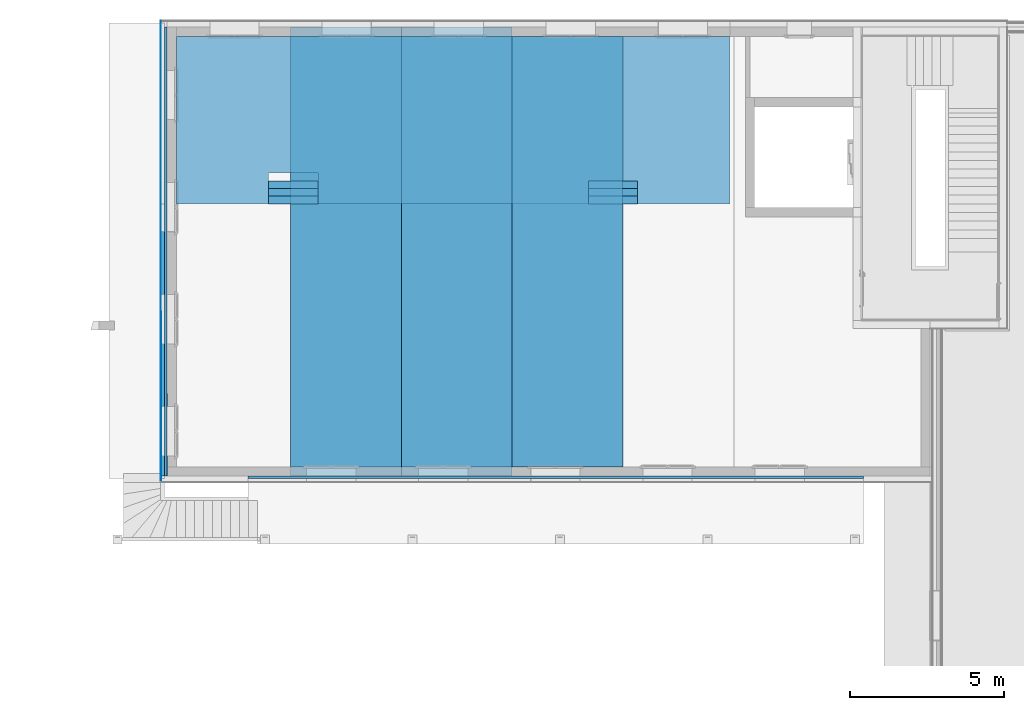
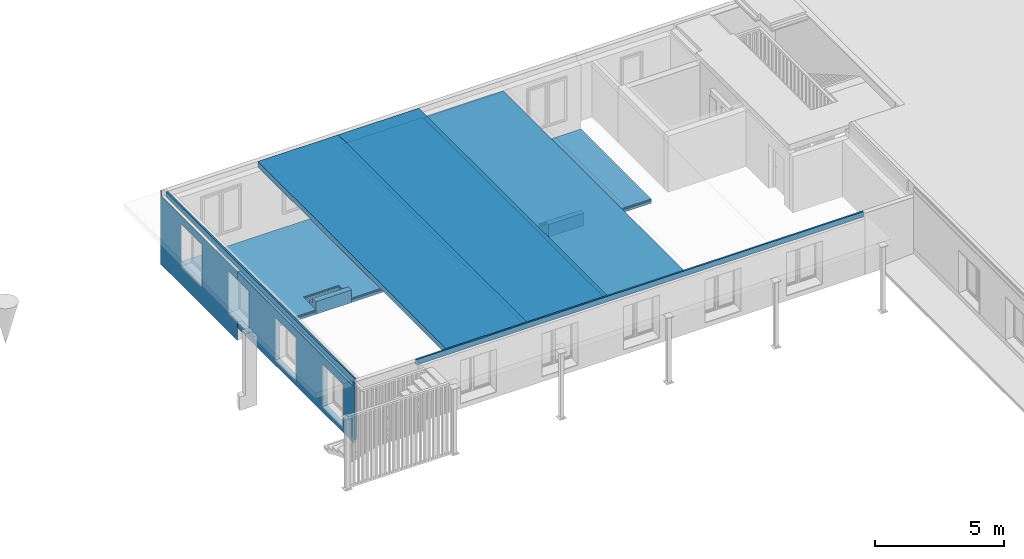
# One storey, part 12 of 20: 16 building element parts, 2 discrete accessories, 5 openings, 8 elements without a shape of their own.
"""IFC4 building model written with IfcOpenShell, lengths in millimetres."""

from ifc_helpers import new_model, entity, si_unit, converted_unit, derived_unit, direction, frame, origin_with_axes, place, context, subcontext, project, spatial, polygons, material, type_object, element, aggregate, save


model = new_model("IFC4")

# Units and contexts
model_context = context("Model", 3, precision=0.01, world=origin_with_axes(), true_north=direction((0.0, 1.0)))
body_context = subcontext(model_context, "Body", "Model", "MODEL_VIEW")
ifc_project = project(units=[si_unit("LENGTHUNIT", "METRE", prefix="MILLI"), si_unit("AREAUNIT", "SQUARE_METRE"), si_unit("VOLUMEUNIT", "CUBIC_METRE"), converted_unit("PLANEANGLEUNIT", "DEGREE", entity("IfcPlaneAngleMeasure", 0.0174532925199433), si_unit("PLANEANGLEUNIT", "RADIAN"), dimensions=[0, 0, 0, 0, 0, 0, 0]), converted_unit("TIMEUNIT", "Year", entity("IfcTimeMeasure", 31557600.0), si_unit("TIMEUNIT", "SECOND"), dimensions=[0, 0, 1, 0, 0, 0, 0]), si_unit("MASSUNIT", "GRAM", prefix="KILO"), si_unit("THERMODYNAMICTEMPERATUREUNIT", "DEGREE_CELSIUS"), si_unit("LUMINOUSINTENSITYUNIT", "LUMEN"), si_unit("ENERGYUNIT", "JOULE", prefix="MEGA"), derived_unit("THERMALCONDUCTANCEUNIT", [(si_unit("POWERUNIT", "WATT"), 1), (si_unit("LENGTHUNIT", "METRE"), -1), (si_unit("THERMODYNAMICTEMPERATUREUNIT", "KELVIN"), -1)]), derived_unit("SPECIFICHEATCAPACITYUNIT", [(si_unit("ENERGYUNIT", "JOULE"), 1), (si_unit("MASSUNIT", "GRAM", prefix="KILO"), -1), (si_unit("THERMODYNAMICTEMPERATUREUNIT", "KELVIN"), -1)]), derived_unit("MASSDENSITYUNIT", [(si_unit("MASSUNIT", "GRAM", prefix="KILO"), 1), (si_unit("VOLUMEUNIT", "CUBIC_METRE"), -1)])], contexts=[model_context])

# Site, building, storey
site_placement = place(None, origin_with_axes())
site = spatial("IfcSite", under=ifc_project, at=site_placement, Name="Gelände", CompositionType="ELEMENT")
building_placement = place(site_placement, origin_with_axes())
building = spatial("IfcBuilding", under=site, at=building_placement, Name="Gebäude", CompositionType="ELEMENT")
storey_placement = place(building_placement, frame((0.0, 0.0, 5.198845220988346e-05), z_axis=(0.0, 0.0, 1.0), x_axis=(1.0, 0.0, 0.0)))
storey = spatial("IfcBuildingStorey", under=building, at=storey_placement, Name="EG", CompositionType="ELEMENT", Elevation=0.0)

# Discrete accessories
ifc_material_1 = material(Name="Bewehrung")
discrete_accessory_type = type_object("IfcDiscreteAccessoryType", Name="Bewehrung 80 x 250", PredefinedType="NOTDEFINED")
discrete_accessory_1_placement = place(storey_placement, frame((-4228.246602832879, 23157.59674077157, 2649.999948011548), z_axis=(0.0, 0.0, 1.0), x_axis=(0.0, -1.0, 0.0)))
element("IfcDiscreteAccessory", 1, at=discrete_accessory_1_placement, inside=storey, type_object=discrete_accessory_type, material=ifc_material_1, Name="Unterzug-029", PredefinedType="NOTDEFINED", context=body_context, shape_type="Tessellation", body=[
    polygons([(0.0, 19991.24242132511, 0.0), (79.9999999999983, 19991.24242132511, 0.0), (79.9999999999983, 0.0, 0.0), (0.0, 0.0, 0.0), (0.0, 19991.24242132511, 250.0), (79.9999999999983, 19991.24242132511, 250.0), (79.9999999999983, 0.0, 250.0), (0.0, 0.0, 250.0)], [[[1, 2, 3, 4]], [[1, 5, 6, 2]], [[2, 6, 7, 3]], [[4, 3, 7, 8]], [[5, 1, 4, 8]], [[6, 5, 8, 7]]], closed=True),
])
discrete_accessory_2_placement = place(storey_placement, frame((-6861.004181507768, 37737.5972813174, 2649.999948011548), z_axis=(0.0, 0.0, 1.0), x_axis=(-1.0, 0.0, 0.0)))
element("IfcDiscreteAccessory", 2, at=discrete_accessory_2_placement, inside=storey, type_object=discrete_accessory_type, material=ifc_material_1, Name="Unterzug-028", PredefinedType="NOTDEFINED", context=body_context, shape_type="Tessellation", body=[
    polygons([(0.0, 14580.00054054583, 0.0), (80.00000000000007, 14580.00054054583, 0.0), (80.00000000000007, 0.0, 0.0), (0.0, 0.0, 0.0), (0.0, 14580.00054054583, 250.0), (80.00000000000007, 14580.00054054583, 250.0), (80.00000000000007, 0.0, 250.0), (0.0, 0.0, 250.0)], [[[1, 2, 3, 4]], [[1, 5, 6, 2]], [[2, 6, 7, 3]], [[4, 3, 7, 8]], [[5, 1, 4, 8]], [[6, 5, 8, 7]]], closed=True),
])

# Curtain wall, openings, building element part
curtain_wall_type = type_object("IfcCurtainWallType", Name="Fassade Typ 01 - Kompaktfassade 210", PredefinedType="NOTDEFINED")
curtain_wall_1_placement = place(storey_placement, frame((-7071.004181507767, 37947.59728131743, -600.0000000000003), z_axis=(0.0, 0.0, 1.0), x_axis=(0.0, -1.0, 0.0)))
curtain_wall_1 = element("IfcCurtainWall", 3, at=curtain_wall_1_placement, inside=storey, type_object=curtain_wall_type, Name="Wand-014", PredefinedType="NOTDEFINED")
opening_1_placement = place(curtain_wall_1_placement, frame((2412.000000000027, 0.0, 861.9999480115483), z_axis=(0.0, 0.0, 1.0), x_axis=(1.0, 0.0, 0.0)))
element("IfcOpeningElement", 4, at=opening_1_placement, cuts=curtain_wall_1, Name="Fenster-004", context=body_context, identifier="Reference", shape_type="Tessellation", body=[
    polygons([(-801.9999999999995, -1.00000000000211, 2010.0), (-801.9999999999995, -1.00000000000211, 0.0), (801.9999999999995, -1.000000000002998, 0.0), (801.9999999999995, -1.000000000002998, 2010.0), (-801.9999999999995, 211.000000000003, 2010.0), (-801.9999999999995, 211.000000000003, 0.0), (801.9999999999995, 211.0000000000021, 0.0), (801.9999999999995, 211.0000000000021, 2010.0)], [[[1, 2, 3, 4]], [[5, 6, 2, 1]], [[6, 7, 3, 2]], [[7, 8, 4, 3]], [[8, 5, 1, 4]], [[7, 6, 5, 8]]], closed=True),
])
opening_2_placement = place(curtain_wall_1_placement, frame((6054.000000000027, 0.0, 861.9999480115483), z_axis=(0.0, 0.0, 1.0), x_axis=(1.0, 0.0, 0.0)))
element("IfcOpeningElement", 5, at=opening_2_placement, cuts=curtain_wall_1, Name="Fenster-004", context=body_context, identifier="Reference", shape_type="Tessellation", body=[
    polygons([(-802.0000000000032, -1.000000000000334, 2010.0), (-802.0000000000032, -1.000000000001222, 0.0), (801.9999999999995, -1.000000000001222, 0.0), (801.9999999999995, -1.000000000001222, 2010.0), (-802.0000000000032, 211.0000000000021, 2010.0), (-802.0000000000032, 211.0000000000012, 0.0), (801.9999999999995, 211.0000000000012, 0.0), (801.9999999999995, 211.0000000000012, 2010.0)], [[[1, 2, 3, 4]], [[5, 6, 2, 1]], [[6, 7, 3, 2]], [[7, 8, 4, 3]], [[8, 5, 1, 4]], [[7, 6, 5, 8]]], closed=True),
])
ifc_material_2 = material(Name="Zementputz Aussen")
building_element_part_1_placement = place(curtain_wall_1_placement, origin_with_axes())
building_element_part_1 = element("IfcBuildingElementPart", 6, at=building_element_part_1_placement, material=ifc_material_2, Name="Zementputz Aussen", PredefinedType="NOTDEFINED", context=body_context, shape_type="Tessellation", body=[
    polygons([(5252.000000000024, 9.999999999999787, 2871.999948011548), (5252.000000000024, 9.999999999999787, 861.9999480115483), (5949.999771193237, 10.00001472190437, 861.9999480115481), (5950.000282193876, 10.00001472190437, 600.0000000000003), (5950.000282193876, 9.999999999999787, 0.0), (0.0, 9.999999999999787, 0.0), (0.0, 10.00000024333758, 3499.999948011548), (80.00000000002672, 10.00000043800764, 3499.999948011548), (80.00000000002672, 10.00001472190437, 3249.999948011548), (5949.995113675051, 10.00001472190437, 3249.999948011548), (5949.995850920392, 10.00001472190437, 2871.999948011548), (3214.000000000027, 10.00001472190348, 861.9999480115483), (3214.000000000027, 10.00001472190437, 2871.999948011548), (1610.000000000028, 10.00001472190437, 2871.999948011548), (1610.000000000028, 10.00001472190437, 861.9999480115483), (5252.000000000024, 0.0, 861.9999480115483), (5252.000000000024, 0.0, 2871.999948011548), (5950.000282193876, 0.0, 861.9999480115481), (5950.000282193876, 0.0, 600.0000000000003), (5950.000282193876, 0.0, 0.0), (0.0, 0.0, 0.0), (0.0, 0.0, 3499.999948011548), (80.00000000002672, 0.0, 3499.999948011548), (80.00000000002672, 0.0, 3249.999948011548), (5950.000282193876, 0.0, 3249.999948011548), (5950.000282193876, 0.0, 2871.999948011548), (3214.000000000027, 0.0, 861.9999480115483), (3214.000000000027, 0.0, 2871.999948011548), (1610.000000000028, 0.0, 2871.999948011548), (1610.000000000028, 0.0, 861.9999480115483)], [[[1, 2, 3, 4, 5, 6, 7, 8, 9, 10, 11], [12, 13, 14, 15]], [[16, 2, 1, 17]], [[18, 3, 2, 16]], [[4, 3, 18, 19]], [[4, 19, 20, 5]], [[20, 21, 6, 5]], [[7, 6, 21, 22]], [[8, 7, 22, 23]], [[8, 23, 24, 9]], [[9, 24, 25, 10]], [[25, 26, 11, 10]], [[17, 1, 11, 26]], [[13, 12, 27, 28]], [[14, 13, 28, 29]], [[15, 14, 29, 30]], [[12, 15, 30, 27]], [[16, 17, 26, 25, 24, 23, 22, 21, 20, 19, 18], [27, 30, 29, 28]]], closed=True),
])
aggregate(curtain_wall_1, [building_element_part_1])

# Curtain wall, openings, building element parts
curtain_wall_2_placement = place(storey_placement, frame((-7071.004181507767, 31997.59699912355, 0.0), z_axis=(0.0, 0.0, 1.0), x_axis=(0.001131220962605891, -0.9999993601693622, 0.0)))
curtain_wall_2 = element("IfcCurtainWall", 7, at=curtain_wall_2_placement, inside=storey, type_object=curtain_wall_type, Name="Wand-014", PredefinedType="NOTDEFINED")
opening_3_placement = place(curtain_wall_2_placement, frame((3745.999717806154, 0.0, 261.9999480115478), z_axis=(0.0, 0.0, 1.0), x_axis=(1.0, 0.0, 0.0)))
element("IfcOpeningElement", 8, at=opening_3_placement, cuts=curtain_wall_2, Name="Fenster-004", context=body_context, identifier="Reference", shape_type="Tessellation", body=[
    polygons([(-801.9999999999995, -11.23755000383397, 2010.0), (-801.9999999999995, -11.23755000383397, 0.0), (801.9999999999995, -11.23755000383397, 0.0), (801.9999999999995, -11.23755000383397, 2010.0), (-801.999999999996, 221.2375500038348, 2010.0), (-801.999999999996, 221.2375500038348, 0.0), (802.0000000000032, 221.2375500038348, 0.0), (802.0000000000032, 221.2375500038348, 2010.0)], [[[1, 2, 3, 4]], [[5, 6, 2, 1]], [[6, 7, 3, 2]], [[7, 8, 4, 3]], [[8, 5, 1, 4]], [[7, 6, 5, 8]]], closed=True),
])
opening_4_placement = place(curtain_wall_2_placement, frame((103.999717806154, 0.0, 261.9999480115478), z_axis=(0.0, 0.0, 1.0), x_axis=(1.0, 0.0, 0.0)))
element("IfcOpeningElement", 9, at=opening_4_placement, cuts=curtain_wall_2, Name="Fenster-004", context=body_context, identifier="Reference", shape_type="Tessellation", body=[
    polygons([(-802.0000000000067, -11.23755000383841, 2010.0), (-802.0000000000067, -11.23755000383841, 0.0), (801.9999999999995, -11.23755000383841, 0.0), (801.9999999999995, -11.23755000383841, 2010.0), (-802.0000000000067, 221.2375500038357, 2010.0), (-802.0000000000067, 221.2375500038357, 0.0), (802.0000000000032, 221.2375500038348, 0.0), (802.0000000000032, 221.2375500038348, 2010.0)], [[[1, 2, 3, 4]], [[5, 6, 2, 1]], [[6, 7, 3, 2]], [[7, 8, 4, 3]], [[8, 5, 1, 4]], [[7, 6, 5, 8]]], closed=True),
])
opening_5_placement = place(curtain_wall_2_placement, frame((7387.999717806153, 0.0, 261.9999480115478), z_axis=(0.0, 0.0, 1.0), x_axis=(1.0, 0.0, 0.0)))
element("IfcOpeningElement", 10, at=opening_5_placement, cuts=curtain_wall_2, Name="Fenster-004", context=body_context, identifier="Reference", shape_type="Tessellation", body=[
    polygons([(-801.9999999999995, -11.23755000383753, 2010.0), (-801.9999999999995, -11.23755000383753, 0.0), (801.9999999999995, -11.23755000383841, 0.0), (801.9999999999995, -11.23755000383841, 2010.0), (-801.9999999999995, 221.2375500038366, 2010.0), (-801.9999999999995, 221.2375500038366, 0.0), (802.0000000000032, 221.2375500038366, 0.0), (802.0000000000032, 221.2375500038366, 2010.0)], [[[1, 2, 3, 4]], [[5, 6, 2, 1]], [[6, 7, 3, 2]], [[7, 8, 4, 3]], [[8, 5, 1, 4]], [[7, 6, 5, 8]]], closed=True),
])
ifc_material_3 = material(Name="Dämmung Aussen")
building_element_part_2_placement = place(curtain_wall_2_placement, origin_with_axes())
building_element_part_2 = element("IfcBuildingElementPart", 11, at=building_element_part_2_placement, material=ifc_material_3, Name="Dämmung Aussen", PredefinedType="NOTDEFINED", context=body_context, shape_type="Tessellation", body=[
    polygons([(0.005656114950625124, 10.00001472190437, 2649.999948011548), (0.005656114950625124, 10.00001472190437, 2271.999948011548), (905.9997178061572, 10.00000049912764, 2271.999948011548), (905.9997178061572, 10.00000049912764, 261.9999480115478), (0.005656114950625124, 10.00001472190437, 261.9999480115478), (0.005656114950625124, 10.00001472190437, 0.0), (8840.017226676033, 10.00000049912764, 0.0), (8840.017226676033, 10.00000049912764, 2649.999948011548), (4547.999717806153, 10.00000049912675, 2271.999948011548), (4547.999717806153, 10.00000049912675, 261.9999480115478), (2943.999717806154, 10.00000049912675, 261.9999480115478), (2943.999717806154, 10.00000049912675, 2271.999948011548), (6585.999717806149, 10.00000049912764, 261.9999480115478), (6585.999717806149, 10.00000049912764, 2271.999948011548), (8189.999717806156, 10.00000049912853, 2271.999948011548), (8189.999717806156, 10.00000049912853, 261.9999480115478), (0.1187782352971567, 210.0000000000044, 2649.999948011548), (0.1187782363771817, 210.0000009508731, 2271.999948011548), (905.9997178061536, 210.0000000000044, 2271.999948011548), (905.9997178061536, 210.0000000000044, 261.9999480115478), (0.1187782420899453, 210.0000060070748, 261.9999480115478), (0.1187782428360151, 210.0000066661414, 0.0), (8840.243471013, 210.0000002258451, 0.0), (8840.243471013, 210.0000002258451, 2649.999948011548), (8840.141660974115, 119.9999232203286, 2649.999948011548), (4547.999717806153, 210.0000066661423, 2271.999948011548), (4547.999717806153, 210.0000066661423, 261.9999480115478), (2943.99971780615, 210.0000066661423, 261.9999480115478), (2943.99971780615, 210.0000066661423, 2271.999948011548), (6585.999717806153, 210.0000060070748, 261.9999480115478), (6585.999717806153, 210.0000060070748, 2271.999948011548), (8189.999717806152, 210.0000060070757, 2271.999948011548), (8189.999717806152, 210.0000060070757, 261.9999480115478)], [[[1, 2, 3, 4, 5, 6, 7, 8], [9, 10, 11, 12], [13, 14, 15, 16]], [[2, 1, 17, 18]], [[19, 3, 2, 18]], [[20, 4, 3, 19]], [[21, 5, 4, 20]], [[21, 22, 6, 5]], [[22, 23, 7, 6]], [[8, 7, 23, 24, 25]], [[24, 17, 1, 8, 25]], [[10, 9, 26, 27]], [[11, 10, 27, 28]], [[12, 11, 28, 29]], [[9, 12, 29, 26]], [[30, 31, 14, 13]], [[31, 32, 15, 14]], [[32, 33, 16, 15]], [[33, 30, 13, 16]], [[24, 23, 22, 21, 20, 19, 18, 17], [26, 29, 28, 27], [30, 33, 32, 31]]], closed=True),
])
building_element_part_3_placement = place(curtain_wall_2_placement, origin_with_axes())
building_element_part_3 = element("IfcBuildingElementPart", 12, at=building_element_part_3_placement, material=ifc_material_2, Name="Zementputz Aussen", PredefinedType="NOTDEFINED", context=body_context, shape_type="Tessellation", body=[
    polygons([(0.0, 0.0, 2649.999948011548), (0.0, 0.0, 2271.999948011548), (905.9997178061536, 0.0, 2271.999948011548), (905.9997178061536, 0.0, 261.9999480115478), (0.0, 0.0, 261.9999480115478), (0.0, 0.0, 0.0), (9040.00604242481, 0.0, 0.0), (9040.00604242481, 0.0, 2899.999948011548), (8920.005965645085, 0.0, 2899.999948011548), (8920.005965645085, 0.0, 2649.999948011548), (4547.999717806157, 0.0, 2271.999948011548), (4547.999717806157, 0.0, 261.9999480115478), (2943.999717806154, 0.0, 261.9999480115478), (2943.999717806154, 0.0, 2271.999948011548), (6585.999717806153, 0.0, 261.9999480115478), (6585.999717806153, 0.0, 2271.999948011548), (8189.999717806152, 0.0, 2271.999948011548), (8189.999717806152, 0.0, 261.9999480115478), (0.005656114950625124, 10.00001472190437, 2649.999948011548), (0.005656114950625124, 10.00001472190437, 2271.999948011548), (905.9997178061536, 10.00000017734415, 2271.999948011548), (905.9997178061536, 10.00000017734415, 261.9999480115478), (0.005656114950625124, 10.00001472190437, 261.9999480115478), (0.005656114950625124, 10.00001472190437, 0.0), (9040.017354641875, 10.00000017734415, 0.0), (9040.017354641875, 10.00000017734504, 2899.999948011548), (8920.017277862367, 10.0000003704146, 2899.999948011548), (8920.017277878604, 10.00001472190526, 2649.999948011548), (4547.999717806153, 10.00001472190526, 2271.999948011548), (4547.999717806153, 10.00001472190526, 261.9999480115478), (2943.999717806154, 10.00001472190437, 261.9999480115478), (2943.999717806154, 10.00001472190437, 2271.999948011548), (6585.999717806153, 10.00001472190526, 261.9999480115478), (6585.999717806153, 10.00001472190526, 2271.999948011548), (8189.999717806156, 10.00001472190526, 2271.999948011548), (8189.999717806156, 10.00001472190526, 261.9999480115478)], [[[1, 2, 3, 4, 5, 6, 7, 8, 9, 10], [11, 12, 13, 14], [15, 16, 17, 18]], [[2, 1, 19, 20]], [[21, 3, 2, 20]], [[22, 4, 3, 21]], [[23, 5, 4, 22]], [[23, 24, 6, 5]], [[25, 7, 6, 24]], [[7, 25, 26, 8]], [[26, 27, 9, 8]], [[10, 9, 27, 28]], [[10, 28, 19, 1]], [[12, 11, 29, 30]], [[13, 12, 30, 31]], [[14, 13, 31, 32]], [[11, 14, 32, 29]], [[33, 34, 16, 15]], [[34, 35, 17, 16]], [[35, 36, 18, 17]], [[36, 33, 15, 18]], [[26, 25, 24, 23, 22, 21, 20, 19, 28, 27], [29, 32, 31, 30], [33, 36, 35, 34]]], closed=True),
])
aggregate(curtain_wall_2, [building_element_part_2, building_element_part_3])

# Slab, building element parts
slab_type_1 = type_object("IfcSlabType", Name="Geschossdecke Typ 04 260", PredefinedType="NOTDEFINED")
slab_1_placement = place(storey_placement, frame((-2848.004181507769, 23157.59674077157, 2899.999948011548), z_axis=(0.0, 0.0, 1.0), x_axis=(1.0, 0.0, 0.0)))
slab_1 = element("IfcSlab", 13, at=slab_1_placement, inside=storey, type_object=slab_type_1, Name="Deckennr.-073", PredefinedType="NOTDEFINED")
ifc_material_4 = material(Name="Kalkzementputz Aussen")
building_element_part_4_placement = place(slab_1_placement, origin_with_axes())
building_element_part_4 = element("IfcBuildingElementPart", 14, at=building_element_part_4_placement, material=ifc_material_4, Name="Kalkzementputz Aussen", PredefinedType="NOTDEFINED", context=body_context, shape_type="Tessellation", body=[
    polygons([(3599.999999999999, 14280.00054054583, -260.0000000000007), (3599.999999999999, 14280.00054054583, -250.0000000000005), (3599.999999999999, 300.0000000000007, -250.0000000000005), (3599.999999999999, 300.0000000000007, -260.0000000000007), (0.0, 14280.00054054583, -250.0000000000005), (0.0, 14280.00054054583, -260.0000000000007), (0.0, 300.0000000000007, -250.0000000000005), (0.0, 300.0000000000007, -260.0000000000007)], [[[1, 2, 3, 4]], [[5, 2, 1, 6]], [[2, 5, 7, 3]], [[4, 3, 7, 8]], [[6, 1, 4, 8]], [[5, 6, 8, 7]]], closed=True),
])
ifc_material_5 = material(Name="Beton bewehrt")
building_element_part_5_placement = place(slab_1_placement, origin_with_axes())
building_element_part_5 = element("IfcBuildingElementPart", 15, at=building_element_part_5_placement, material=ifc_material_5, Name="Beton bewehrt", PredefinedType="NOTDEFINED", context=body_context, shape_type="Tessellation", body=[
    polygons([(3599.999999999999, 0.0, -250.0000000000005), (3599.999999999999, 0.0, 0.0), (0.0, 0.0, 0.0), (0.0, 0.0, -250.0000000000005), (3599.999999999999, 14580.00054054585, -250.0000000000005), (3599.999999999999, 14580.00054054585, 0.0), (0.0, 14580.00054054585, 0.0), (0.0, 14580.00054054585, -250.0000000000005)], [[[1, 2, 3, 4]], [[5, 6, 2, 1]], [[3, 2, 6, 7]], [[4, 3, 7, 8]], [[4, 8, 5, 1]], [[8, 7, 6, 5]]], closed=True),
])
aggregate(slab_1, [building_element_part_4, building_element_part_5])

slab_type_2 = type_object("IfcSlabType", Name="Geschossdecke Typ 05 251", PredefinedType="NOTDEFINED")
slab_2_placement = place(storey_placement, frame((751.9958184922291, 23157.59674077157, 2899.999948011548), z_axis=(0.0, 0.0, 1.0), x_axis=(1.0, 0.0, 0.0)))
slab_2 = element("IfcSlab", 16, at=slab_2_placement, inside=storey, type_object=slab_type_2, Name="Deckennr.-073", PredefinedType="NOTDEFINED")
building_element_part_6_placement = place(slab_2_placement, origin_with_axes())
building_element_part_6 = element("IfcBuildingElementPart", 17, at=building_element_part_6_placement, material=ifc_material_5, Name="Beton bewehrt", PredefinedType="NOTDEFINED", context=body_context, shape_type="Tessellation", body=[
    polygons([(3600.0, 0.0, -250.0), (3600.0, 0.0, 0.0), (0.0, 0.0, 0.0), (0.0, 0.0, -250.0), (3600.0, 14580.00054054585, -250.0), (3600.0, 14580.00054054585, 0.0), (0.0, 14580.00054054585, 0.0), (0.0, 14580.00054054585, -250.0)], [[[1, 2, 3, 4]], [[5, 6, 2, 1]], [[3, 2, 6, 7]], [[4, 3, 7, 8]], [[4, 8, 5, 1]], [[8, 7, 6, 5]]], closed=True),
])
ifc_material_6 = material(Name="Anstrich Innen")
building_element_part_7_placement = place(slab_2_placement, origin_with_axes())
building_element_part_7 = element("IfcBuildingElementPart", 18, at=building_element_part_7_placement, material=ifc_material_6, Name="Anstrich Innen", PredefinedType="NOTDEFINED", context=body_context, shape_type="Tessellation", body=[
    polygons([(3600.0, 14280.00054054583, -250.9999999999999), (3600.0, 14280.00054054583, -250.0), (3600.0, 300.0000000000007, -250.0), (3600.0, 300.0000000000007, -250.9999999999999), (0.0, 14280.00054054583, -250.0), (0.0, 14280.00054054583, -250.9999999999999), (0.0, 300.0000000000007, -250.0), (0.0, 300.0000000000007, -250.9999999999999)], [[[1, 2, 3, 4]], [[5, 2, 1, 6]], [[2, 5, 7, 3]], [[4, 3, 7, 8]], [[6, 1, 4, 8]], [[5, 6, 8, 7]]], closed=True),
])
aggregate(slab_2, [building_element_part_6, building_element_part_7])

# Covering, building element parts
covering_type_1 = type_object("IfcCoveringType", Name="Deckenbekleidung Typ 01 65", PredefinedType="NOTDEFINED")
covering_1_placement = place(storey_placement, frame((4351.995818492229, 23457.59674077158, 2649.999948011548), z_axis=(0.0, 0.0, 1.0), x_axis=(1.0, 0.0, 0.0)))
covering_1 = element("IfcCovering", 19, at=covering_1_placement, inside=storey, type_object=covering_type_1, Name="Deckennr.-073", PredefinedType="NOTDEFINED")
ifc_material_7 = material(Name="Gipskartonplatte GKP")
building_element_part_8_placement = place(covering_1_placement, origin_with_axes())
building_element_part_8 = element("IfcBuildingElementPart", 20, at=building_element_part_8_placement, material=ifc_material_7, Name="Gipskartonplatte GKP", PredefinedType="NOTDEFINED", context=body_context, shape_type="Tessellation", body=[
    polygons([(0.0, 0.0, -64.99999999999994), (3600.0, 0.0, -64.99999999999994), (3600.0, 0.0, -52.50000000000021), (0.0, 0.0, -52.50000000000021), (0.0, 13980.00054054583, -64.99999999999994), (3600.0, 13980.00054054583, -64.99999999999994), (3600.0, 13980.00054054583, -52.50000000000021), (0.0, 13980.00054054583, -52.50000000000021)], [[[1, 2, 3, 4]], [[1, 5, 6, 2]], [[2, 6, 7, 3]], [[4, 3, 7, 8]], [[5, 1, 4, 8]], [[6, 5, 8, 7]]], closed=True),
])
ifc_material_8 = material(Name="Lattenrost vertikal")
building_element_part_9_placement = place(covering_1_placement, origin_with_axes())
building_element_part_9 = element("IfcBuildingElementPart", 21, at=building_element_part_9_placement, material=ifc_material_8, Name="Lattenrost vertikal", PredefinedType="NOTDEFINED", context=body_context, shape_type="Tessellation", body=[
    polygons([(3600.0, 0.0, -40.00000000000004), (3600.0, 0.0, 0.0), (0.0, 0.0, 0.0), (0.0, 0.0, -40.00000000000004), (3600.0, 13980.00054054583, -40.00000000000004), (3600.0, 13980.00054054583, 0.0), (0.0, 13980.00054054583, 0.0), (0.0, 13980.00054054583, -40.00000000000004)], [[[1, 2, 3, 4]], [[5, 6, 2, 1]], [[3, 2, 6, 7]], [[4, 3, 7, 8]], [[4, 8, 5, 1]], [[8, 7, 6, 5]]], closed=True),
])
building_element_part_10_placement = place(covering_1_placement, origin_with_axes())
building_element_part_10 = element("IfcBuildingElementPart", 22, at=building_element_part_10_placement, material=ifc_material_7, Name="Gipskartonplatte GKP", PredefinedType="NOTDEFINED", context=body_context, shape_type="Tessellation", body=[
    polygons([(3600.0, 0.0, -52.50000000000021), (3600.0, 0.0, -40.00000000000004), (0.0, 0.0, -40.00000000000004), (0.0, 0.0, -52.50000000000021), (3600.0, 13980.00054054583, -52.50000000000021), (3600.0, 13980.00054054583, -40.00000000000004), (0.0, 13980.00054054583, -40.00000000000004), (0.0, 13980.00054054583, -52.50000000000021)], [[[1, 2, 3, 4]], [[5, 6, 2, 1]], [[3, 2, 6, 7]], [[4, 3, 7, 8]], [[4, 8, 5, 1]], [[8, 7, 6, 5]]], closed=True),
])
aggregate(covering_1, [building_element_part_8, building_element_part_9, building_element_part_10])

covering_type_2 = type_object("IfcCoveringType", Name="Bodenaufbau Typ 04 220", PredefinedType="NOTDEFINED")
covering_2_placement = place(storey_placement, frame((-6561.004181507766, 37437.59715651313, -600.0), z_axis=(0.0, 0.0, 1.0), x_axis=(1.0, 0.0, 0.0)))
covering_2 = element("IfcCovering", 23, at=covering_2_placement, inside=storey, type_object=covering_type_2, Name="Decke-006", PredefinedType="NOTDEFINED")
ifc_material_9 = material(Name="Bodenbelag")
building_element_part_11_placement = place(covering_2_placement, origin_with_axes())
building_element_part_11 = element("IfcBuildingElementPart", 24, at=building_element_part_11_placement, material=ifc_material_9, Name="Bodenbelag", PredefinedType="NOTDEFINED", context=body_context, shape_type="Tessellation", body=[
    polygons([(0.0, -5440.000157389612, 205.0), (0.0, -5440.000157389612, 220.0), (0.0, 0.0, 220.0), (0.0, 0.0, 205.0), (2999.99986997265, -5440.000157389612, 205.0), (2999.99986997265, -5440.000157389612, 220.0), (2999.99986997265, -4440.000290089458, 220.0), (4599.999979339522, -4440.000290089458, 220.0), (4599.999979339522, -5440.000157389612, 220.0), (13390.00282862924, -5440.000157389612, 220.0), (13390.00282862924, -4690.000157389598, 220.0), (14990.00293799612, -4690.000157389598, 220.0), (14990.00293799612, -5440.000157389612, 220.0), (17990.00280796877, -5440.000157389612, 220.0), (17990.00280796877, 0.0, 220.0), (17990.00280796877, 0.0, 205.0), (17990.00280796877, -5440.000157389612, 205.0), (14990.00293799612, -5440.000157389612, 205.0), (14990.00293799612, -4690.000157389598, 205.0), (13390.00282862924, -4690.000157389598, 205.0), (13390.00282862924, -5440.000157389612, 205.0), (4599.999979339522, -5440.000157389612, 205.0), (4599.999979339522, -4440.000290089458, 205.0), (2999.99986997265, -4440.000290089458, 205.0)], [[[1, 2, 3, 4]], [[5, 6, 2, 1]], [[3, 2, 6, 7, 8, 9, 10, 11, 12, 13, 14, 15]], [[4, 3, 15, 16]], [[4, 16, 17, 18, 19, 20, 21, 22, 23, 24, 5, 1]], [[24, 7, 6, 5]], [[23, 8, 7, 24]], [[22, 9, 8, 23]], [[21, 10, 9, 22]], [[20, 11, 10, 21]], [[19, 12, 11, 20]], [[18, 13, 12, 19]], [[17, 14, 13, 18]], [[16, 15, 14, 17]]], closed=True),
])
ifc_material_10 = material(Name="Unterlagsboden")
building_element_part_12_placement = place(covering_2_placement, origin_with_axes())
building_element_part_12 = element("IfcBuildingElementPart", 25, at=building_element_part_12_placement, material=ifc_material_10, Name="Unterlagsboden", PredefinedType="NOTDEFINED", context=body_context, shape_type="Tessellation", body=[
    polygons([(0.0, -5440.000157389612, 150.0), (0.0, -5440.000157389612, 205.0), (0.0, 0.0, 205.0), (0.0, 0.0, 150.0), (2999.99986997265, -5440.000157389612, 150.0), (2999.99986997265, -5440.000157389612, 205.0), (2999.99986997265, -4440.000290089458, 205.0), (4599.999979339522, -4440.000290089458, 205.0), (4599.999979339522, -5440.000157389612, 205.0), (13390.00282862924, -5440.000157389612, 205.0), (13390.00282862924, -4690.000157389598, 205.0), (14990.00293799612, -4690.000157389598, 205.0), (14990.00293799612, -5440.000157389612, 205.0), (17990.00280796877, -5440.000157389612, 205.0), (17990.00280796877, 0.0, 205.0), (17990.00280796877, 0.0, 150.0), (17990.00280796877, -5440.000157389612, 150.0), (14990.00293799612, -5440.000157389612, 150.0), (14990.00293799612, -4690.000157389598, 150.0), (13390.00282862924, -4690.000157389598, 150.0), (13390.00282862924, -5440.000157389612, 150.0), (4599.999979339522, -5440.000157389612, 150.0), (4599.999979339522, -4440.000290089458, 150.0), (2999.99986997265, -4440.000290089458, 150.0)], [[[1, 2, 3, 4]], [[5, 6, 2, 1]], [[3, 2, 6, 7, 8, 9, 10, 11, 12, 13, 14, 15]], [[4, 3, 15, 16]], [[4, 16, 17, 18, 19, 20, 21, 22, 23, 24, 5, 1]], [[24, 7, 6, 5]], [[23, 8, 7, 24]], [[22, 9, 8, 23]], [[21, 10, 9, 22]], [[20, 11, 10, 21]], [[19, 12, 11, 20]], [[18, 13, 12, 19]], [[17, 14, 13, 18]], [[16, 15, 14, 17]]], closed=True),
])
building_element_part_13_placement = place(covering_2_placement, origin_with_axes())
building_element_part_13 = element("IfcBuildingElementPart", 26, at=building_element_part_13_placement, PredefinedType="NOTDEFINED", context=body_context, shape_type="Tessellation", body=[
    polygons([(0.0, -5440.000157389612, 130.0), (0.0, -5440.000157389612, 150.0), (0.0, 0.0, 150.0), (0.0, 0.0, 130.0), (2999.99986997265, -5440.000157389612, 130.0), (2999.99986997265, -5440.000157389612, 150.0), (2999.99986997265, -4440.000290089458, 150.0), (4599.999979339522, -4440.000290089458, 150.0), (4599.999979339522, -5440.000157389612, 150.0), (13390.00282862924, -5440.000157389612, 150.0), (13390.00282862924, -4690.000157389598, 150.0), (14990.00293799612, -4690.000157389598, 150.0), (14990.00293799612, -5440.000157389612, 150.0), (17990.00280796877, -5440.000157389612, 150.0), (17990.00280796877, 0.0, 150.0), (17990.00280796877, 0.0, 130.0), (17990.00280796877, -5440.000157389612, 130.0), (14990.00293799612, -5440.000157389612, 130.0), (14990.00293799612, -4690.000157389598, 130.0), (13390.00282862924, -4690.000157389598, 130.0), (13390.00282862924, -5440.000157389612, 130.0), (4599.999979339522, -5440.000157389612, 130.0), (4599.999979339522, -4440.000290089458, 130.0), (2999.99986997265, -4440.000290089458, 130.0)], [[[1, 2, 3, 4]], [[5, 6, 2, 1]], [[3, 2, 6, 7, 8, 9, 10, 11, 12, 13, 14, 15]], [[4, 3, 15, 16]], [[4, 16, 17, 18, 19, 20, 21, 22, 23, 24, 5, 1]], [[24, 7, 6, 5]], [[23, 8, 7, 24]], [[22, 9, 8, 23]], [[21, 10, 9, 22]], [[20, 11, 10, 21]], [[19, 12, 11, 20]], [[18, 13, 12, 19]], [[17, 14, 13, 18]], [[16, 15, 14, 17]]], closed=True),
])
building_element_part_14_placement = place(covering_2_placement, origin_with_axes())
building_element_part_14 = element("IfcBuildingElementPart", 27, at=building_element_part_14_placement, PredefinedType="NOTDEFINED", context=body_context, shape_type="Tessellation", body=[
    polygons([(0.0, -5440.000157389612, 10.00000000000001), (0.0, -5440.000157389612, 130.0), (0.0, 0.0, 130.0), (0.0, 0.0, 10.00000000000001), (2999.99986997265, -5440.000157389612, 10.00000000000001), (2999.99986997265, -5440.000157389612, 130.0), (2999.99986997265, -4440.000290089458, 130.0), (4599.999979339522, -4440.000290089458, 130.0), (4599.999979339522, -5440.000157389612, 130.0), (13390.00282862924, -5440.000157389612, 130.0), (13390.00282862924, -4690.000157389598, 130.0), (14990.00293799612, -4690.000157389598, 130.0), (14990.00293799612, -5440.000157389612, 130.0), (17990.00280796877, -5440.000157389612, 130.0), (17990.00280796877, 0.0, 130.0), (17990.00280796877, 0.0, 10.00000000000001), (17990.00280796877, -5440.000157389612, 10.00000000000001), (14990.00293799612, -5440.000157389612, 10.00000000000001), (14990.00293799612, -4690.000157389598, 10.00000000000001), (13390.00282862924, -4690.000157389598, 10.00000000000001), (13390.00282862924, -5440.000157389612, 10.00000000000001), (4599.999979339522, -5440.000157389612, 10.00000000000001), (4599.999979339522, -4440.000290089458, 10.00000000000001), (2999.99986997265, -4440.000290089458, 10.00000000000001)], [[[1, 2, 3, 4]], [[5, 6, 2, 1]], [[3, 2, 6, 7, 8, 9, 10, 11, 12, 13, 14, 15]], [[4, 3, 15, 16]], [[4, 16, 17, 18, 19, 20, 21, 22, 23, 24, 5, 1]], [[24, 7, 6, 5]], [[23, 8, 7, 24]], [[22, 9, 8, 23]], [[21, 10, 9, 22]], [[20, 11, 10, 21]], [[19, 12, 11, 20]], [[18, 13, 12, 19]], [[17, 14, 13, 18]], [[16, 15, 14, 17]]], closed=True),
])
aggregate(covering_2, [building_element_part_11, building_element_part_12, building_element_part_13, building_element_part_14])

# Stair, building element part
stair_type = type_object("IfcStairType", Name="Treppentyp", PredefinedType="NOTDEFINED")
stair_1_placement = place(storey_placement, frame((-2761.004181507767, 32720.9896504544, -600.0), z_axis=(0.0, 0.0, 1.0), x_axis=(0.0, 1.0, 0.0)))
stair_1 = element("IfcStair", 28, at=stair_1_placement, inside=storey, type_object=stair_type, Name="Treppe-001", PredefinedType="NOTDEFINED")
building_element_part_15_placement = place(stair_1_placement, origin_with_axes())
building_element_part_15 = element("IfcBuildingElementPart", 29, at=building_element_part_15_placement, material=ifc_material_5, Name="Beton bewehrt", PredefinedType="NOTDEFINED", context=body_context, shape_type="Tessellation", body=[
    polygons([(-473.3926513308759, -800.0000000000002, 399.9999999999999), (-223.3926513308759, -800.0000000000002, 399.9999999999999), (-223.3926513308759, 799.9999999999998, 399.9999999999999), (-473.3926513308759, 799.9999999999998, 400.0), (-473.3926513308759, -800.0000000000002, 600.0), (-723.3926513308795, -800.0000000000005, 600.0), (-723.3926513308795, -800.0000000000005, 0.0), (26.60734866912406, -800.0000000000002, 0.0), (26.60734866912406, -800.0000000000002, 199.9999999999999), (-223.3926513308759, -800.0000000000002, 199.9999999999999), (-223.3926513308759, 799.9999999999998, 199.9999999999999), (26.60734866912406, 799.9999999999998, 0.0), (-723.3926513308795, 799.9999999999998, 0.0), (-723.3926513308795, 799.9999999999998, 600.0), (-473.3926513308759, 799.9999999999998, 600.0), (26.60734866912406, 799.9999999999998, 199.9999999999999)], [[[1, 2, 3, 4]], [[1, 5, 6, 7, 8, 9, 10, 2]], [[11, 3, 2, 10]], [[12, 13, 14, 15, 4, 3, 11, 16]], [[4, 15, 5, 1]], [[14, 6, 5, 15]], [[6, 14, 13, 7]], [[12, 8, 7, 13]], [[16, 9, 8, 12]], [[10, 9, 16, 11]]], closed=True),
])
aggregate(stair_1, [building_element_part_15])

stair_2_placement = place(storey_placement, frame((7628.998626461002, 32720.9896504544, -600.0), z_axis=(0.0, 0.0, 1.0), x_axis=(0.0, 1.0, 0.0)))
stair_2 = element("IfcStair", 30, at=stair_2_placement, inside=storey, type_object=stair_type, Name="Treppe-001", PredefinedType="NOTDEFINED")
building_element_part_16_placement = place(stair_2_placement, origin_with_axes())
building_element_part_16 = element("IfcBuildingElementPart", 31, at=building_element_part_16_placement, material=ifc_material_5, Name="Beton bewehrt", PredefinedType="NOTDEFINED", context=body_context, shape_type="Tessellation", body=[
    polygons([(-473.3926513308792, 800.0, 399.9999999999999), (-473.3926513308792, -800.0, 400.0), (-223.3926513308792, -800.0, 399.9999999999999), (-223.3926513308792, 800.0, 399.9999999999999), (-473.3926513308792, 800.0, 600.0), (-473.3926513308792, -800.0, 600.0), (26.60734866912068, -800.0, 0.0), (26.60734866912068, -800.0, 200.0), (-223.3926513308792, -800.0, 200.0), (-723.3926513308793, -800.0, 600.0), (-723.3926513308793, -800.0, 0.0), (-223.3926513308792, 800.0, 200.0), (26.60734866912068, 800.0, 200.0), (26.60734866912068, 800.0, 0.0), (-723.3926513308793, 800.0, 0.0), (-723.3926513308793, 800.0, 600.0)], [[[1, 2, 3, 4]], [[2, 1, 5, 6]], [[7, 8, 9, 3, 2, 6, 10, 11]], [[9, 12, 4, 3]], [[1, 4, 12, 13, 14, 15, 16, 5]], [[10, 6, 5, 16]], [[8, 7, 14, 13]], [[12, 9, 8, 13]], [[16, 15, 11, 10]], [[7, 11, 15, 14]]], closed=True),
])
aggregate(stair_2, [building_element_part_16])

save(model, "model.ifc")
